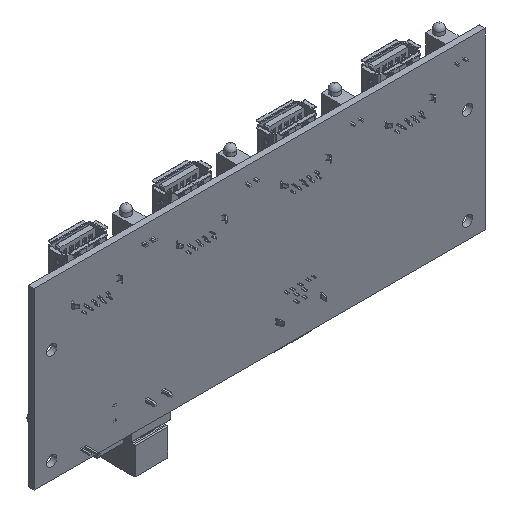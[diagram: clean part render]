
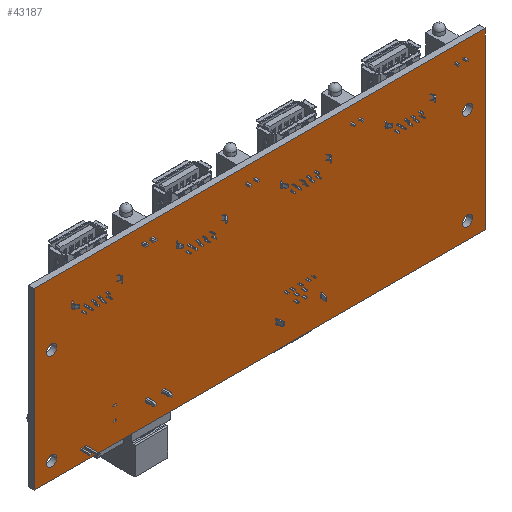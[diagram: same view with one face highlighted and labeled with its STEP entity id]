
A CAD part, isometric view. The second image highlights one B-rep face of the part: STEP entity #43187.
In plain terms, the highlighted planar face has unit normal (0, -1, 0).
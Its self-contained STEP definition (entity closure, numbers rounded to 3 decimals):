
#2069=FACE_BOUND('',#17371,.T.);
#2070=FACE_BOUND('',#17372,.T.);
#2071=FACE_BOUND('',#17373,.T.);
#2072=FACE_BOUND('',#17374,.T.);
#2073=FACE_BOUND('',#17375,.T.);
#2074=FACE_BOUND('',#17376,.T.);
#2485=PLANE('',#46041);
#4656=LINE('',#62841,#9832);
#4657=LINE('',#62843,#9833);
#4658=LINE('',#62845,#9834);
#4659=LINE('',#62846,#9835);
#4660=LINE('',#62849,#9836);
#4661=LINE('',#62851,#9837);
#4662=LINE('',#62853,#9838);
#4663=LINE('',#62854,#9839);
#4664=LINE('',#62857,#9840);
#4665=LINE('',#62859,#9841);
#4666=LINE('',#62861,#9842);
#4667=LINE('',#62862,#9843);
#9832=VECTOR('',#50795,10.);
#9833=VECTOR('',#50796,10.);
#9834=VECTOR('',#50797,10.);
#9835=VECTOR('',#50798,10.);
#9836=VECTOR('',#50799,10.);
#9837=VECTOR('',#50800,10.);
#9838=VECTOR('',#50801,10.);
#9839=VECTOR('',#50802,10.);
#9840=VECTOR('',#50803,10.);
#9841=VECTOR('',#50804,10.);
#9842=VECTOR('',#50805,10.);
#9843=VECTOR('',#50806,10.);
#15117=FACE_OUTER_BOUND('',#17370,.T.);
#17370=EDGE_LOOP('',(#32380,#32381,#32382,#32383));
#17371=EDGE_LOOP('',(#32384,#32385,#32386,#32387));
#17372=EDGE_LOOP('',(#32388,#32389,#32390,#32391));
#17373=EDGE_LOOP('',(#32392));
#17374=EDGE_LOOP('',(#32393));
#17375=EDGE_LOOP('',(#32394));
#17376=EDGE_LOOP('',(#32395));
#19548=CIRCLE('',#46042,1.6);
#19549=CIRCLE('',#46043,1.6);
#19550=CIRCLE('',#46044,1.6);
#19551=CIRCLE('',#46045,1.6);
#20813=VERTEX_POINT('',#62839);
#20814=VERTEX_POINT('',#62840);
#20815=VERTEX_POINT('',#62842);
#20816=VERTEX_POINT('',#62844);
#20817=VERTEX_POINT('',#62847);
#20818=VERTEX_POINT('',#62848);
#20819=VERTEX_POINT('',#62850);
#20820=VERTEX_POINT('',#62852);
#20821=VERTEX_POINT('',#62855);
#20822=VERTEX_POINT('',#62856);
#20823=VERTEX_POINT('',#62858);
#20824=VERTEX_POINT('',#62860);
#20825=VERTEX_POINT('',#62863);
#20826=VERTEX_POINT('',#62865);
#20827=VERTEX_POINT('',#62867);
#20828=VERTEX_POINT('',#62869);
#25195=EDGE_CURVE('',#20813,#20814,#4656,.T.);
#25196=EDGE_CURVE('',#20815,#20813,#4657,.T.);
#25197=EDGE_CURVE('',#20816,#20815,#4658,.T.);
#25198=EDGE_CURVE('',#20814,#20816,#4659,.T.);
#25199=EDGE_CURVE('',#20817,#20818,#4660,.T.);
#25200=EDGE_CURVE('',#20819,#20817,#4661,.T.);
#25201=EDGE_CURVE('',#20820,#20819,#4662,.T.);
#25202=EDGE_CURVE('',#20818,#20820,#4663,.T.);
#25203=EDGE_CURVE('',#20821,#20822,#4664,.T.);
#25204=EDGE_CURVE('',#20823,#20821,#4665,.T.);
#25205=EDGE_CURVE('',#20824,#20823,#4666,.T.);
#25206=EDGE_CURVE('',#20822,#20824,#4667,.T.);
#25207=EDGE_CURVE('',#20825,#20825,#19548,.T.);
#25208=EDGE_CURVE('',#20826,#20826,#19549,.T.);
#25209=EDGE_CURVE('',#20827,#20827,#19550,.T.);
#25210=EDGE_CURVE('',#20828,#20828,#19551,.T.);
#32380=ORIENTED_EDGE('',*,*,#25195,.F.);
#32381=ORIENTED_EDGE('',*,*,#25196,.F.);
#32382=ORIENTED_EDGE('',*,*,#25197,.F.);
#32383=ORIENTED_EDGE('',*,*,#25198,.F.);
#32384=ORIENTED_EDGE('',*,*,#25199,.F.);
#32385=ORIENTED_EDGE('',*,*,#25200,.F.);
#32386=ORIENTED_EDGE('',*,*,#25201,.F.);
#32387=ORIENTED_EDGE('',*,*,#25202,.F.);
#32388=ORIENTED_EDGE('',*,*,#25203,.F.);
#32389=ORIENTED_EDGE('',*,*,#25204,.F.);
#32390=ORIENTED_EDGE('',*,*,#25205,.F.);
#32391=ORIENTED_EDGE('',*,*,#25206,.F.);
#32392=ORIENTED_EDGE('',*,*,#25207,.F.);
#32393=ORIENTED_EDGE('',*,*,#25208,.F.);
#32394=ORIENTED_EDGE('',*,*,#25209,.F.);
#32395=ORIENTED_EDGE('',*,*,#25210,.F.);
#43187=ADVANCED_FACE('',(#15117,#2069,#2070,#2071,#2072,#2073,#2074),#2485,
 .F.);
#46041=AXIS2_PLACEMENT_3D('',#62838,#50793,#50794);
#46042=AXIS2_PLACEMENT_3D('',#62864,#50807,#50808);
#46043=AXIS2_PLACEMENT_3D('',#62866,#50809,#50810);
#46044=AXIS2_PLACEMENT_3D('',#62868,#50811,#50812);
#46045=AXIS2_PLACEMENT_3D('',#62870,#50813,#50814);
#50793=DIRECTION('center_axis',(0.,1.,0.));
#50794=DIRECTION('ref_axis',(1.,0.,0.));
#50795=DIRECTION('',(0.,0.,1.));
#50796=DIRECTION('',(-1.,0.,0.));
#50797=DIRECTION('',(0.,0.,-1.));
#50798=DIRECTION('',(1.,0.,0.));
#50799=DIRECTION('',(-1.,0.,0.));
#50800=DIRECTION('',(0.,0.,1.));
#50801=DIRECTION('',(1.,0.,0.));
#50802=DIRECTION('',(0.,0.,-1.));
#50803=DIRECTION('',(-1.,0.,0.));
#50804=DIRECTION('',(0.,0.,1.));
#50805=DIRECTION('',(1.,0.,0.));
#50806=DIRECTION('',(0.,0.,-1.));
#50807=DIRECTION('center_axis',(0.,-1.,0.));
#50808=DIRECTION('ref_axis',(1.,0.,0.));
#50809=DIRECTION('center_axis',(0.,-1.,0.));
#50810=DIRECTION('ref_axis',(1.,0.,0.));
#50811=DIRECTION('center_axis',(0.,-1.,0.));
#50812=DIRECTION('ref_axis',(1.,0.,0.));
#50813=DIRECTION('center_axis',(0.,-1.,0.));
#50814=DIRECTION('ref_axis',(1.,0.,0.));
#62838=CARTESIAN_POINT('Origin',(70.59,0.,-27.33));
#62839=CARTESIAN_POINT('',(0.,0.,-54.66));
#62840=CARTESIAN_POINT('',(0.,0.,0.));
#62841=CARTESIAN_POINT('',(0.,0.,-54.66));
#62842=CARTESIAN_POINT('',(141.18,0.,-54.66));
#62843=CARTESIAN_POINT('',(141.18,0.,-54.66));
#62844=CARTESIAN_POINT('',(141.18,0.,0.));
#62845=CARTESIAN_POINT('',(141.18,0.,0.));
#62846=CARTESIAN_POINT('',(0.,0.,0.));
#62847=CARTESIAN_POINT('',(34.857,0.,-4.726));
#62848=CARTESIAN_POINT('',(34.349,0.,-4.726));
#62849=CARTESIAN_POINT('',(52.47,0.,-4.726));
#62850=CARTESIAN_POINT('',(34.857,0.,-5.234));
#62851=CARTESIAN_POINT('',(34.857,0.,-16.028));
#62852=CARTESIAN_POINT('',(34.349,0.,-5.234));
#62853=CARTESIAN_POINT('',(52.597,0.,-5.234));
#62854=CARTESIAN_POINT('',(34.349,0.,-16.282));
#62855=CARTESIAN_POINT('',(37.397,0.,-4.726));
#62856=CARTESIAN_POINT('',(36.889,0.,-4.726));
#62857=CARTESIAN_POINT('',(53.74,0.,-4.726));
#62858=CARTESIAN_POINT('',(37.397,0.,-5.234));
#62859=CARTESIAN_POINT('',(37.397,0.,-16.028));
#62860=CARTESIAN_POINT('',(36.889,0.,-5.234));
#62861=CARTESIAN_POINT('',(53.867,0.,-5.234));
#62862=CARTESIAN_POINT('',(36.889,0.,-16.282));
#62863=CARTESIAN_POINT('',(3.9,0.,-19.4));
#62864=CARTESIAN_POINT('Origin',(5.5,0.,-19.4));
#62865=CARTESIAN_POINT('',(3.9,0.,-49.5));
#62866=CARTESIAN_POINT('Origin',(5.5,0.,-49.5));
#62867=CARTESIAN_POINT('',(134.08,0.,-49.5));
#62868=CARTESIAN_POINT('Origin',(135.68,0.,-49.5));
#62869=CARTESIAN_POINT('',(134.08,0.,-19.4));
#62870=CARTESIAN_POINT('Origin',(135.68,0.,-19.4));
